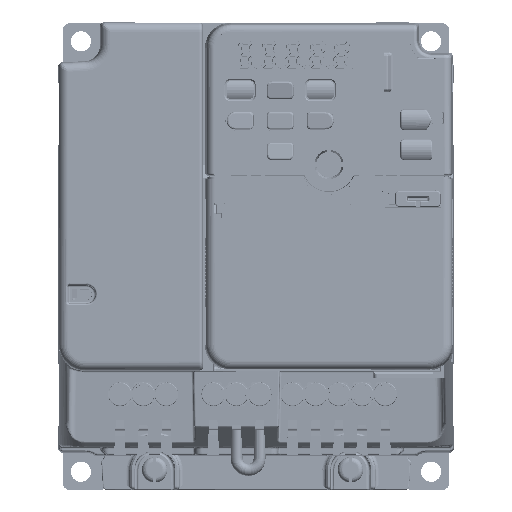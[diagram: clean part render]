
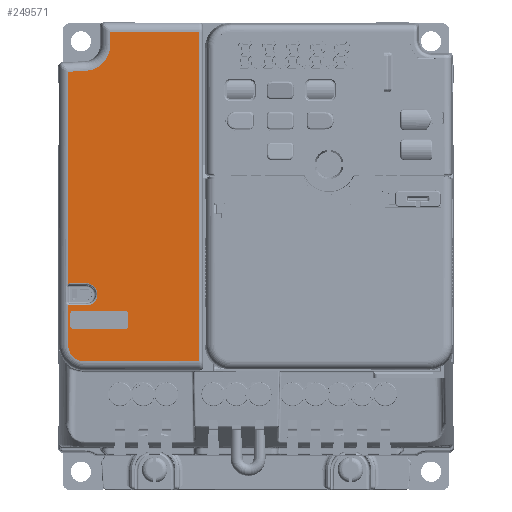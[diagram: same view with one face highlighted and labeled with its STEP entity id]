
A CAD part, top view. The second image highlights one B-rep face of the part: STEP entity #249571.
In plain terms, the highlighted planar face has unit normal (0, 0, 1).
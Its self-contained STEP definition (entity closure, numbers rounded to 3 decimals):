
#170396=DIRECTION('',(0.,-1.,0.));
#170397=VECTOR('',#170396,3.73);
#170398=CARTESIAN_POINT('',(-40.,125.5,62.3));
#170399=LINE('',#170398,#170397);
#170431=DIRECTION('',(-1.,0.,0.));
#170432=VECTOR('',#170431,24.378);
#170433=CARTESIAN_POINT('',(-15.622,125.5,
62.3));
#170434=LINE('',#170433,#170432);
#191322=CARTESIAN_POINT('',(-47.,39.6,62.3));
#191323=DIRECTION('',(0.,0.,-1.));
#191324=DIRECTION('',(0.,-1.,0.));
#191325=AXIS2_PLACEMENT_3D('',#191322,#191323,#191324);
#191327=CARTESIAN_POINT('',(-51.5,50.566,
62.3));
#191328=CARTESIAN_POINT('',(-51.453,50.542,
62.3));
#191329=CARTESIAN_POINT('',(-51.356,50.502,
62.3));
#191330=CARTESIAN_POINT('',(-51.201,50.465,
62.3));
#191331=CARTESIAN_POINT('',(-51.097,50.456,
62.3));
#191332=CARTESIAN_POINT('',(-51.044,50.456,
62.3));
#191334=CARTESIAN_POINT('',(-46.5,53.5,62.3));
#191335=DIRECTION('',(0.,0.,1.));
#191336=DIRECTION('',(0.,-1.,0.));
#191337=AXIS2_PLACEMENT_3D('',#191334,#191335,#191336);
#191339=CARTESIAN_POINT('',(-46.5,53.5,62.3));
#191340=DIRECTION('',(0.,0.,1.));
#191341=DIRECTION('',(0.058,0.998,0.));
#191342=AXIS2_PLACEMENT_3D('',#191339,#191340,#191341);
#191344=CARTESIAN_POINT('',(-51.044,56.544,
62.3));
#191345=CARTESIAN_POINT('',(-51.097,56.544,
62.3));
#191346=CARTESIAN_POINT('',(-51.202,56.535,
62.3));
#191347=CARTESIAN_POINT('',(-51.356,56.498,
62.3));
#191348=CARTESIAN_POINT('',(-51.453,56.458,
62.3));
#191349=CARTESIAN_POINT('',(-51.5,56.434,62.3));
#191351=DIRECTION('',(0.999,0.052,0.));
#191352=VECTOR('',#191351,4.873);
#191353=CARTESIAN_POINT('',(-51.5,114.525,62.3));
#191354=LINE('',#191353,#191352);
#191355=CARTESIAN_POINT('',(-47.,121.77,62.3));
#191356=DIRECTION('',(0.,0.,1.));
#191357=DIRECTION('',(0.052,-0.999,0.));
#191358=AXIS2_PLACEMENT_3D('',#191355,#191356,#191357);
#191360=CARTESIAN_POINT('',(-50.,45.,62.3));
#191361=DIRECTION('',(0.,0.,1.));
#191362=DIRECTION('',(-1.,0.,0.));
#191363=AXIS2_PLACEMENT_3D('',#191360,#191361,#191362);
#191365=CARTESIAN_POINT('',(-36.,45.,62.3));
#191366=DIRECTION('',(0.,0.,1.));
#191367=DIRECTION('',(0.,-1.,0.));
#191368=AXIS2_PLACEMENT_3D('',#191365,#191366,#191367);
#191370=CARTESIAN_POINT('',(-36.,48.,62.3));
#191371=DIRECTION('',(0.,0.,1.));
#191372=DIRECTION('',(1.,0.,0.));
#191373=AXIS2_PLACEMENT_3D('',#191370,#191371,#191372);
#191375=CARTESIAN_POINT('',(-50.,48.,62.3));
#191376=DIRECTION('',(0.,0.,1.));
#191377=DIRECTION('',(0.,1.,0.));
#191378=AXIS2_PLACEMENT_3D('',#191375,#191376,#191377);
#191384=DIRECTION('',(0.,1.,0.));
#191385=VECTOR('',#191384,90.4);
#191386=CARTESIAN_POINT('',(-15.622,35.1,
62.3));
#191387=LINE('',#191386,#191385);
#191401=CARTESIAN_POINT('',(-15.622,35.1,
62.3));
#191416=DIRECTION('',(1.,0.,0.));
#191417=VECTOR('',#191416,31.378);
#191418=CARTESIAN_POINT('',(-47.,35.1,62.3));
#191419=LINE('',#191418,#191417);
#191428=DIRECTION('',(0.,-1.,0.));
#191429=VECTOR('',#191428,58.091);
#191430=CARTESIAN_POINT('',(-51.5,114.525,62.3));
#191431=LINE('',#191430,#191429);
#191452=DIRECTION('',(0.,-1.,
0.));
#191453=VECTOR('',#191452,10.966);
#191454=CARTESIAN_POINT('',(-51.5,50.566,
62.3));
#191455=LINE('',#191454,#191453);
#191528=DIRECTION('',(1.,0.,0.));
#191529=VECTOR('',#191528,4.544);
#191530=CARTESIAN_POINT('',(-51.044,56.544,
62.3));
#191531=LINE('',#191530,#191529);
#191572=DIRECTION('',(-1.,0.,0.));
#191573=VECTOR('',#191572,4.544);
#191574=CARTESIAN_POINT('',(-46.5,50.456,62.3));
#191575=LINE('',#191574,#191573);
#192014=DIRECTION('',(0.,1.,0.));
#192015=VECTOR('',#192014,3.);
#192016=CARTESIAN_POINT('',(-51.,45.,62.3));
#192017=LINE('',#192016,#192015);
#192370=DIRECTION('',(1.,0.,0.));
#192371=VECTOR('',#192370,14.);
#192372=CARTESIAN_POINT('',(-50.,49.,62.3));
#192373=LINE('',#192372,#192371);
#192382=DIRECTION('',(0.,-1.,0.));
#192383=VECTOR('',#192382,3.);
#192384=CARTESIAN_POINT('',(-35.,48.,62.3));
#192385=LINE('',#192384,#192383);
#192394=DIRECTION('',(-1.,0.,0.));
#192395=VECTOR('',#192394,14.);
#192396=CARTESIAN_POINT('',(-36.,44.,62.3));
#192397=LINE('',#192396,#192395);
#217113=VERTEX_POINT('',#191401);
#217114=CARTESIAN_POINT('',(-47.,35.1,62.3));
#217115=VERTEX_POINT('',#217114);
#217116=CARTESIAN_POINT('',(-51.5,39.6,62.3));
#217117=VERTEX_POINT('',#217116);
#217118=CARTESIAN_POINT('',(-40.,125.5,62.3));
#217119=CARTESIAN_POINT('',(-40.,121.77,62.3));
#217120=VERTEX_POINT('',#217118);
#217121=VERTEX_POINT('',#217119);
#217122=CARTESIAN_POINT('',(-15.622,125.5,
62.3));
#217123=VERTEX_POINT('',#217122);
#217124=CARTESIAN_POINT('',(-51.5,50.566,
62.3));
#217125=VERTEX_POINT('',#217124);
#217126=VERTEX_POINT('',#191332);
#217127=CARTESIAN_POINT('',(-46.5,50.456,62.3));
#217128=VERTEX_POINT('',#217127);
#217129=CARTESIAN_POINT('',(-46.322,56.539,62.3));
#217130=VERTEX_POINT('',#217129);
#217131=CARTESIAN_POINT('',(-46.5,56.544,62.3));
#217132=VERTEX_POINT('',#217131);
#217133=CARTESIAN_POINT('',(-51.044,56.544,
62.3));
#217134=VERTEX_POINT('',#217133);
#217135=VERTEX_POINT('',#191349);
#217136=CARTESIAN_POINT('',(-51.5,114.525,62.3));
#217137=VERTEX_POINT('',#217136);
#217138=CARTESIAN_POINT('',(-46.634,114.78,62.3));
#217139=VERTEX_POINT('',#217138);
#217140=CARTESIAN_POINT('',(-51.,45.,62.3));
#217141=CARTESIAN_POINT('',(-51.,48.,62.3));
#217142=VERTEX_POINT('',#217140);
#217143=VERTEX_POINT('',#217141);
#217144=CARTESIAN_POINT('',(-50.,44.,62.3));
#217145=VERTEX_POINT('',#217144);
#217146=CARTESIAN_POINT('',(-36.,44.,62.3));
#217147=VERTEX_POINT('',#217146);
#217148=CARTESIAN_POINT('',(-35.,45.,62.3));
#217149=VERTEX_POINT('',#217148);
#217150=CARTESIAN_POINT('',(-35.,48.,62.3));
#217151=VERTEX_POINT('',#217150);
#217152=CARTESIAN_POINT('',(-36.,49.,62.3));
#217153=VERTEX_POINT('',#217152);
#217154=CARTESIAN_POINT('',(-50.,49.,62.3));
#217155=VERTEX_POINT('',#217154);
#249519=CARTESIAN_POINT('',(0.,0.,62.3));
#249520=DIRECTION('',(0.,0.,1.));
#249521=DIRECTION('',(1.,0.,0.));
#249522=AXIS2_PLACEMENT_3D('',#249519,#249520,#249521);
#249523=PLANE('',#249522);
#249524=ORIENTED_EDGE('',*,*,#222962,.F.);
#249525=ORIENTED_EDGE('',*,*,#223039,.F.);
#249527=ORIENTED_EDGE('',*,*,#249526,.F.);
#249529=ORIENTED_EDGE('',*,*,#249528,.F.);
#249530=ORIENTED_EDGE('',*,*,#249509,.T.);
#249532=ORIENTED_EDGE('',*,*,#249531,.F.);
#249534=ORIENTED_EDGE('',*,*,#249533,.T.);
#249536=ORIENTED_EDGE('',*,*,#249535,.F.);
#249538=ORIENTED_EDGE('',*,*,#249537,.T.);
#249540=ORIENTED_EDGE('',*,*,#249539,.T.);
#249542=ORIENTED_EDGE('',*,*,#249541,.F.);
#249544=ORIENTED_EDGE('',*,*,#249543,.T.);
#249546=ORIENTED_EDGE('',*,*,#249545,.F.);
#249548=ORIENTED_EDGE('',*,*,#249547,.T.);
#249550=ORIENTED_EDGE('',*,*,#249549,.T.);
#249551=EDGE_LOOP('',(#249524,#249525,#249527,#249529,#249530,#249532,#249534,
#249536,#249538,#249540,#249542,#249544,#249546,#249548,#249550));
#249552=FACE_OUTER_BOUND('',#249551,.F.);
#249554=ORIENTED_EDGE('',*,*,#249553,.F.);
#249556=ORIENTED_EDGE('',*,*,#249555,.T.);
#249558=ORIENTED_EDGE('',*,*,#249557,.F.);
#249560=ORIENTED_EDGE('',*,*,#249559,.T.);
#249562=ORIENTED_EDGE('',*,*,#249561,.F.);
#249564=ORIENTED_EDGE('',*,*,#249563,.T.);
#249566=ORIENTED_EDGE('',*,*,#249565,.F.);
#249568=ORIENTED_EDGE('',*,*,#249567,.T.);
#249569=EDGE_LOOP('',(#249554,#249556,#249558,#249560,#249562,#249564,#249566,
#249568));
#249570=FACE_BOUND('',#249569,.F.);
#249571=ADVANCED_FACE('',(#249552,#249570),#249523,.T.);
#191326=CIRCLE('',#191325,4.5);
#191333=B_SPLINE_CURVE_WITH_KNOTS('',3,(#191327,#191328,#191329,#191330,#191331,
#191332),.UNSPECIFIED.,.F.,.F.,(4,1,1,4),(0.,0.333,
0.667,1.),.UNSPECIFIED.);
#191338=CIRCLE('',#191337,3.044);
#191343=CIRCLE('',#191342,3.044);
#191350=B_SPLINE_CURVE_WITH_KNOTS('',3,(#191344,#191345,#191346,#191347,#191348,
#191349),.UNSPECIFIED.,.F.,.F.,(4,1,1,4),(0.,0.333,
0.667,1.),.UNSPECIFIED.);
#191359=CIRCLE('',#191358,7.);
#191364=CIRCLE('',#191363,1.);
#191369=CIRCLE('',#191368,1.);
#191374=CIRCLE('',#191373,1.);
#191379=CIRCLE('',#191378,1.);
#222962=EDGE_CURVE('',#217120,#217121,#170399,.T.);
#223039=EDGE_CURVE('',#217123,#217120,#170434,.T.);
#249509=EDGE_CURVE('',#217115,#217117,#191326,.T.);
#249526=EDGE_CURVE('',#217113,#217123,#191387,.T.);
#249528=EDGE_CURVE('',#217115,#217113,#191419,.T.);
#249531=EDGE_CURVE('',#217125,#217117,#191455,.T.);
#249533=EDGE_CURVE('',#217125,#217126,#191333,.T.);
#249535=EDGE_CURVE('',#217128,#217126,#191575,.T.);
#249537=EDGE_CURVE('',#217128,#217130,#191338,.T.);
#249539=EDGE_CURVE('',#217130,#217132,#191343,.T.);
#249541=EDGE_CURVE('',#217134,#217132,#191531,.T.);
#249543=EDGE_CURVE('',#217134,#217135,#191350,.T.);
#249545=EDGE_CURVE('',#217137,#217135,#191431,.T.);
#249547=EDGE_CURVE('',#217137,#217139,#191354,.T.);
#249549=EDGE_CURVE('',#217139,#217121,#191359,.T.);
#249553=EDGE_CURVE('',#217142,#217143,#192017,.T.);
#249555=EDGE_CURVE('',#217142,#217145,#191364,.T.);
#249557=EDGE_CURVE('',#217147,#217145,#192397,.T.);
#249559=EDGE_CURVE('',#217147,#217149,#191369,.T.);
#249561=EDGE_CURVE('',#217151,#217149,#192385,.T.);
#249563=EDGE_CURVE('',#217151,#217153,#191374,.T.);
#249565=EDGE_CURVE('',#217155,#217153,#192373,.T.);
#249567=EDGE_CURVE('',#217155,#217143,#191379,.T.);
